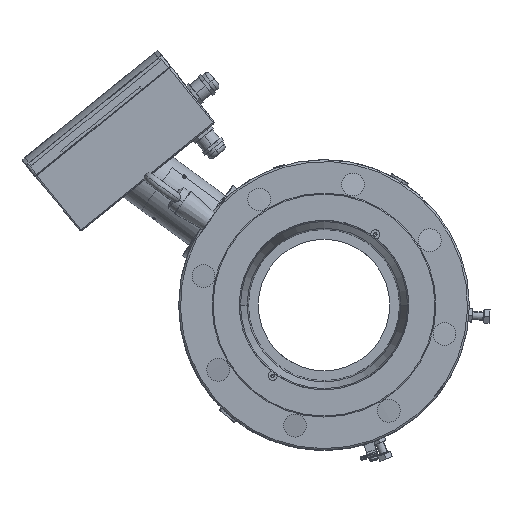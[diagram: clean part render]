
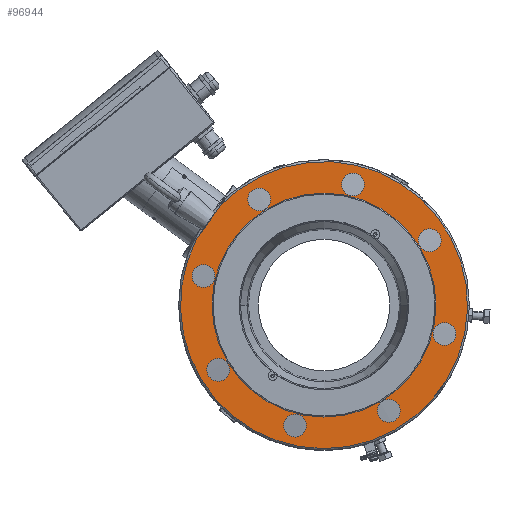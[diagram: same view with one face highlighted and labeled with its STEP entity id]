
A CAD part, left-side view. The second image highlights one B-rep face of the part: STEP entity #96944.
In plain terms, the highlighted planar face has unit normal (-1, 0, 0).
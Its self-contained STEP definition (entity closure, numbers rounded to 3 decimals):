
#23253=CARTESIAN_POINT('',(-224.4,0.,0.));
#23254=DIRECTION('',(-1.,0.,0.));
#23255=DIRECTION('',(0.,0.886,0.463));
#23256=AXIS2_PLACEMENT_3D('',#23253,#23254,#23255);
#23379=DIRECTION('',(0.,-0.588,0.809));
#23380=VECTOR('',#23379,40.834);
#23381=CARTESIAN_POINT('',(-224.4,123.807,64.714));
#23382=LINE('4709',#23381,#23380);
#23386=CARTESIAN_POINT('',(-224.4,0.,0.));
#23387=DIRECTION('',(-1.,0.,0.));
#23388=DIRECTION('',(0.,1.,0.));
#23389=AXIS2_PLACEMENT_3D('',#23386,#23387,#23388);
#23394=CARTESIAN_POINT('',(-224.4,0.,0.));
#23395=DIRECTION('',(1.,0.,0.));
#23396=DIRECTION('',(0.,1.,0.));
#23397=AXIS2_PLACEMENT_3D('',#23394,#23395,#23396);
#23402=CARTESIAN_POINT('',(-224.4,117.316,28.165));
#23403=DIRECTION('',(1.,0.,0.));
#23404=DIRECTION('',(0.,1.,0.));
#23405=AXIS2_PLACEMENT_3D('',#23402,#23403,#23404);
#23410=CARTESIAN_POINT('',(-224.4,117.316,28.165));
#23411=DIRECTION('',(1.,0.,0.));
#23412=DIRECTION('',(0.,-1.,0.));
#23413=AXIS2_PLACEMENT_3D('',#23410,#23411,#23412);
#23418=CARTESIAN_POINT('',(-224.4,63.039,102.871));
#23419=DIRECTION('',(1.,0.,0.));
#23420=DIRECTION('',(0.,0.707,0.707));
#23421=AXIS2_PLACEMENT_3D('',#23418,#23419,#23420);
#23426=CARTESIAN_POINT('',(-224.4,63.039,102.871));
#23427=DIRECTION('',(1.,0.,0.));
#23428=DIRECTION('',(0.,-0.707,-0.707));
#23429=AXIS2_PLACEMENT_3D('',#23426,#23427,#23428);
#23434=CARTESIAN_POINT('',(-224.4,-28.165,117.316));
#23435=DIRECTION('',(1.,0.,0.));
#23436=DIRECTION('',(0.,0.,1.));
#23437=AXIS2_PLACEMENT_3D('',#23434,#23435,#23436);
#23442=CARTESIAN_POINT('',(-224.4,-28.165,117.316));
#23443=DIRECTION('',(1.,0.,0.));
#23444=DIRECTION('',(0.,0.,-1.));
#23445=AXIS2_PLACEMENT_3D('',#23442,#23443,#23444);
#23450=CARTESIAN_POINT('',(-224.4,-102.871,63.039));
#23451=DIRECTION('',(1.,0.,0.));
#23452=DIRECTION('',(0.,-0.707,0.707));
#23453=AXIS2_PLACEMENT_3D('',#23450,#23451,#23452);
#23458=CARTESIAN_POINT('',(-224.4,-102.871,63.039));
#23459=DIRECTION('',(1.,0.,0.));
#23460=DIRECTION('',(0.,0.707,-0.707));
#23461=AXIS2_PLACEMENT_3D('',#23458,#23459,#23460);
#23466=CARTESIAN_POINT('',(-224.4,-117.316,-28.165));
#23467=DIRECTION('',(1.,0.,0.));
#23468=DIRECTION('',(0.,-1.,0.));
#23469=AXIS2_PLACEMENT_3D('',#23466,#23467,#23468);
#23474=CARTESIAN_POINT('',(-224.4,-117.316,-28.165));
#23475=DIRECTION('',(1.,0.,0.));
#23476=DIRECTION('',(0.,1.,0.));
#23477=AXIS2_PLACEMENT_3D('',#23474,#23475,#23476);
#23482=CARTESIAN_POINT('',(-224.4,-63.039,-102.871));
#23483=DIRECTION('',(1.,0.,0.));
#23484=DIRECTION('',(0.,-0.707,-0.707));
#23485=AXIS2_PLACEMENT_3D('',#23482,#23483,#23484);
#23490=CARTESIAN_POINT('',(-224.4,-63.039,-102.871));
#23491=DIRECTION('',(1.,0.,0.));
#23492=DIRECTION('',(0.,0.707,0.707));
#23493=AXIS2_PLACEMENT_3D('',#23490,#23491,#23492);
#23498=CARTESIAN_POINT('',(-224.4,28.165,-117.316));
#23499=DIRECTION('',(1.,0.,0.));
#23500=DIRECTION('',(0.,0.,-1.));
#23501=AXIS2_PLACEMENT_3D('',#23498,#23499,#23500);
#23506=CARTESIAN_POINT('',(-224.4,28.165,-117.316));
#23507=DIRECTION('',(1.,0.,0.));
#23508=DIRECTION('',(0.,0.,1.));
#23509=AXIS2_PLACEMENT_3D('',#23506,#23507,#23508);
#23514=CARTESIAN_POINT('',(-224.4,102.871,-63.039));
#23515=DIRECTION('',(1.,0.,0.));
#23516=DIRECTION('',(0.,0.707,-0.707));
#23517=AXIS2_PLACEMENT_3D('',#23514,#23515,#23516);
#23522=CARTESIAN_POINT('',(-224.4,102.871,-63.039));
#23523=DIRECTION('',(1.,0.,0.));
#23524=DIRECTION('',(0.,-0.707,0.707));
#23525=AXIS2_PLACEMENT_3D('',#23522,#23523,#23524);
#69821=CARTESIAN_POINT('',(-224.4,128.416,28.165));
#69822=CARTESIAN_POINT('',(-224.4,106.216,28.165));
#69823=VERTEX_POINT('',#69821);
#69824=VERTEX_POINT('',#69822);
#69829=CARTESIAN_POINT('',(-224.4,70.888,110.72));
#69830=CARTESIAN_POINT('',(-224.4,55.191,95.022));
#69831=VERTEX_POINT('',#69829);
#69832=VERTEX_POINT('',#69830);
#69837=CARTESIAN_POINT('',(-224.4,-28.165,128.416));
#69838=CARTESIAN_POINT('',(-224.4,-28.165,106.216));
#69839=VERTEX_POINT('',#69837);
#69840=VERTEX_POINT('',#69838);
#69845=CARTESIAN_POINT('',(-224.4,-110.72,70.888));
#69846=CARTESIAN_POINT('',(-224.4,-95.022,55.191));
#69847=VERTEX_POINT('',#69845);
#69848=VERTEX_POINT('',#69846);
#69853=CARTESIAN_POINT('',(-224.4,-128.416,-28.165));
#69854=CARTESIAN_POINT('',(-224.4,-106.216,-28.165));
#69855=VERTEX_POINT('',#69853);
#69856=VERTEX_POINT('',#69854);
#69861=CARTESIAN_POINT('',(-224.4,-70.888,-110.72));
#69862=CARTESIAN_POINT('',(-224.4,-55.191,-95.022));
#69863=VERTEX_POINT('',#69861);
#69864=VERTEX_POINT('',#69862);
#69869=CARTESIAN_POINT('',(-224.4,28.165,-128.416));
#69870=CARTESIAN_POINT('',(-224.4,28.165,-106.216));
#69871=VERTEX_POINT('',#69869);
#69872=VERTEX_POINT('',#69870);
#69877=CARTESIAN_POINT('',(-224.4,110.72,-70.888));
#69878=CARTESIAN_POINT('',(-224.4,95.022,-55.191));
#69879=VERTEX_POINT('',#69877);
#69880=VERTEX_POINT('',#69878);
#69971=CARTESIAN_POINT('',(-224.4,108.95,0.));
#69972=VERTEX_POINT('',#69971);
#69977=CARTESIAN_POINT('',(-224.4,-108.95,0.));
#69978=VERTEX_POINT('',#69977);
#70111=CARTESIAN_POINT('',(-224.4,123.807,64.714));
#70112=CARTESIAN_POINT('',(-224.4,99.805,97.75));
#70113=VERTEX_POINT('',#70111);
#70114=VERTEX_POINT('',#70112);
#96880=CARTESIAN_POINT('',(-224.4,0.,0.));
#96881=DIRECTION('',(-1.,0.,0.));
#96882=DIRECTION('',(0.,1.,0.));
#96883=AXIS2_PLACEMENT_3D('',#96880,#96881,#96882);
#96884=PLANE('443',#96883);
#96885=ORIENTED_EDGE('4714',*,*,#96857,.F.);
#96887=ORIENTED_EDGE('4709',*,*,#96886,.T.);
#96888=EDGE_LOOP('443',(#96885,#96887));
#96889=FACE_OUTER_BOUND('443',#96888,.F.);
#96891=ORIENTED_EDGE('4583',*,*,#96890,.T.);
#96893=ORIENTED_EDGE('4586',*,*,#96892,.F.);
#96894=EDGE_LOOP('443',(#96891,#96893));
#96895=FACE_BOUND('443',#96894,.F.);
#96897=ORIENTED_EDGE('4451',*,*,#96896,.F.);
#96899=ORIENTED_EDGE('4452',*,*,#96898,.F.);
#96900=EDGE_LOOP('443',(#96897,#96899));
#96901=FACE_BOUND('443',#96900,.F.);
#96903=ORIENTED_EDGE('4457',*,*,#96902,.F.);
#96905=ORIENTED_EDGE('4458',*,*,#96904,.F.);
#96906=EDGE_LOOP('443',(#96903,#96905));
#96907=FACE_BOUND('443',#96906,.F.);
#96909=ORIENTED_EDGE('4463',*,*,#96908,.F.);
#96911=ORIENTED_EDGE('4464',*,*,#96910,.F.);
#96912=EDGE_LOOP('443',(#96909,#96911));
#96913=FACE_BOUND('443',#96912,.F.);
#96915=ORIENTED_EDGE('4469',*,*,#96914,.F.);
#96917=ORIENTED_EDGE('4470',*,*,#96916,.F.);
#96918=EDGE_LOOP('443',(#96915,#96917));
#96919=FACE_BOUND('443',#96918,.F.);
#96921=ORIENTED_EDGE('4475',*,*,#96920,.F.);
#96923=ORIENTED_EDGE('4476',*,*,#96922,.F.);
#96924=EDGE_LOOP('443',(#96921,#96923));
#96925=FACE_BOUND('443',#96924,.F.);
#96927=ORIENTED_EDGE('4481',*,*,#96926,.F.);
#96929=ORIENTED_EDGE('4482',*,*,#96928,.F.);
#96930=EDGE_LOOP('443',(#96927,#96929));
#96931=FACE_BOUND('443',#96930,.F.);
#96933=ORIENTED_EDGE('4487',*,*,#96932,.F.);
#96935=ORIENTED_EDGE('4488',*,*,#96934,.F.);
#96936=EDGE_LOOP('443',(#96933,#96935));
#96937=FACE_BOUND('443',#96936,.F.);
#96939=ORIENTED_EDGE('4493',*,*,#96938,.F.);
#96941=ORIENTED_EDGE('4494',*,*,#96940,.F.);
#96942=EDGE_LOOP('443',(#96939,#96941));
#96943=FACE_BOUND('443',#96942,.F.);
#23257=CIRCLE('4714',#23256,139.7);
#23390=CIRCLE('4583',#23389,108.95);
#23398=CIRCLE('4586',#23397,108.95);
#23406=CIRCLE('4451',#23405,11.1);
#23414=CIRCLE('4452',#23413,11.1);
#23422=CIRCLE('4457',#23421,11.1);
#23430=CIRCLE('4458',#23429,11.1);
#23438=CIRCLE('4463',#23437,11.1);
#23446=CIRCLE('4464',#23445,11.1);
#23454=CIRCLE('4469',#23453,11.1);
#23462=CIRCLE('4470',#23461,11.1);
#23470=CIRCLE('4475',#23469,11.1);
#23478=CIRCLE('4476',#23477,11.1);
#23486=CIRCLE('4481',#23485,11.1);
#23494=CIRCLE('4482',#23493,11.1);
#23502=CIRCLE('4487',#23501,11.1);
#23510=CIRCLE('4488',#23509,11.1);
#23518=CIRCLE('4493',#23517,11.1);
#23526=CIRCLE('4494',#23525,11.1);
#96857=EDGE_CURVE('4714',#70113,#70114,#23257,.T.);
#96886=EDGE_CURVE('4709',#70113,#70114,#23382,.T.);
#96890=EDGE_CURVE('4583',#69972,#69978,#23390,.T.);
#96892=EDGE_CURVE('4586',#69972,#69978,#23398,.T.);
#96896=EDGE_CURVE('4451',#69823,#69824,#23406,.T.);
#96898=EDGE_CURVE('4452',#69824,#69823,#23414,.T.);
#96902=EDGE_CURVE('4457',#69831,#69832,#23422,.T.);
#96904=EDGE_CURVE('4458',#69832,#69831,#23430,.T.);
#96908=EDGE_CURVE('4463',#69839,#69840,#23438,.T.);
#96910=EDGE_CURVE('4464',#69840,#69839,#23446,.T.);
#96914=EDGE_CURVE('4469',#69847,#69848,#23454,.T.);
#96916=EDGE_CURVE('4470',#69848,#69847,#23462,.T.);
#96920=EDGE_CURVE('4475',#69855,#69856,#23470,.T.);
#96922=EDGE_CURVE('4476',#69856,#69855,#23478,.T.);
#96926=EDGE_CURVE('4481',#69863,#69864,#23486,.T.);
#96928=EDGE_CURVE('4482',#69864,#69863,#23494,.T.);
#96932=EDGE_CURVE('4487',#69871,#69872,#23502,.T.);
#96934=EDGE_CURVE('4488',#69872,#69871,#23510,.T.);
#96938=EDGE_CURVE('4493',#69879,#69880,#23518,.T.);
#96940=EDGE_CURVE('4494',#69880,#69879,#23526,.T.);
#96944=ADVANCED_FACE('443',(#96889,#96895,#96901,#96907,#96913,#96919,#96925,
#96931,#96937,#96943),#96884,.T.);
